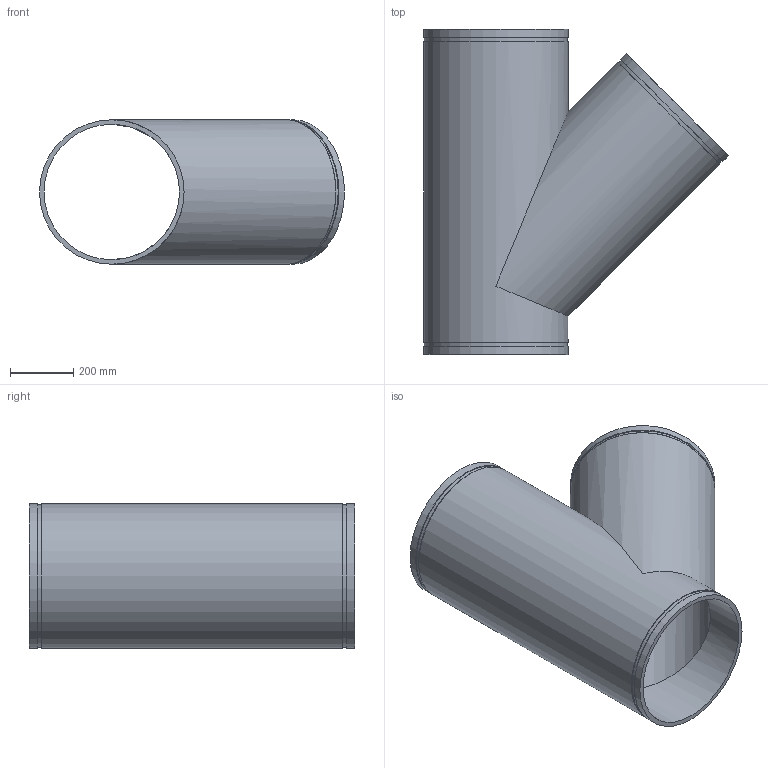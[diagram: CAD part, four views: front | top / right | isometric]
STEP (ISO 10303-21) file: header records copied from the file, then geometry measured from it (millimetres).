
FILE_DESCRIPTION(/* description */ ('VIC 45 DEG FABRICATED LATERAL No 30 SWS (OGS)','CAx-IF Rec.Pracs.---Representation and Presentation of Product Manufacturing Information (PMI)---4.0---2014-10-13'),/* implementation_level */ '2;1');
FILE_NAME(/* name */ 'C:\Users\kkamble\AppData\Roaming\Autodesk\ApplicationPlugins\Back Up\Victaulic_IPS_Lateral 45 Deg_No 30 SWS (OGS)\Victaulic_IPS_Lateral 45 Deg_No 30 SWS (OGS)_18 (450).stp',/* time_stamp */ '2020-09-16T22:21:23+06:00',/* author */ ('cgray'),/* organization */ ('Victaulic'),/* preprocessor_version */ 'ST-DEVELOPER v17.2',/* originating_system */ 'Autodesk Inventor 2019',/* authorisation */ '');
FILE_SCHEMA (('AP242_MANAGED_MODEL_BASED_3D_ENGINEERING_MIM_LF { 1 0 10303 442 1 1 4 }'));
Length unit declared in the file: inch
Products named in the file (1): 30 SWS-18.0
Bounding box: 964.98 x 1028.7 x 457.2 mm (x, y, z)
Volume: 28553020.1 mm3; surface area: 4096609.3 mm2
Topology: 1 solids, 1 shells, 19 faces, 45 edges, 34 vertices
Faces by surface type: cylinder 10, plane 9
Full cylindrical faces by diameter (mm): 428.6 x2, 451.637 x3, 457.2 x5
Entity records: 748 total; most frequent: DIRECTION 145, CARTESIAN_POINT 116, ORIENTED_EDGE 90, AXIS2_PLACEMENT_3D 67, EDGE_CURVE 45, VERTEX_POINT 34, EDGE_LOOP 29, CIRCLE 27
